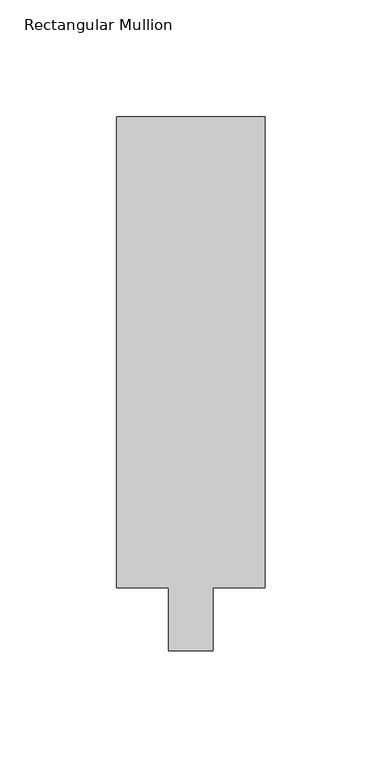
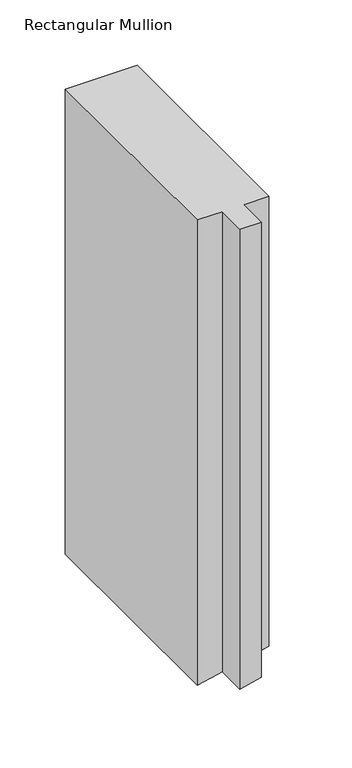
"""IFC4 building model written with IfcOpenShell, lengths in millimetres: member geometry."""

from ifc_helpers import new_model, si_unit, origin, place, context, project, spatial, faceted_brep, source, transform, mapped, element, save


def rectangular_mullion_39315b43(model_context):
    return source(origin(), model_context, "Body", "Brep", [
        faceted_brep([(31.75, 228.6, 0.0), (-31.75, 228.6, 0.0), (-31.75, 26.9875, 0.0), (-9.525, 26.9875, 0.0), (-9.525, 0.0, 0.0), (9.525, 0.0, 0.0), (9.525, 26.9875, 0.0), (31.75, 26.9875, 0.0), (31.75, 228.6, -420.6548715), (-13.6361042, 228.6, -430.633969), (-31.75, 228.6, -434.6166931), (-31.75, 26.9875, -434.6166931), (-13.6361042, 26.9875, -430.633969), (-9.525, 26.9875, -429.7300555), (-9.525, 0.0, -429.7300555), (9.525, 0.0, -425.5415091), (9.525, 26.9875, -425.5415091), (31.75, 26.9875, -420.6548715)], [[[0, 1, 2, 3, 4, 5, 6, 7]], [[1, 0, 8, 9, 10]], [[2, 1, 10, 11]], [[3, 2, 11, 12, 13]], [[4, 3, 13, 14]], [[5, 4, 14, 15]], [[6, 5, 15, 16]], [[7, 6, 16, 17]], [[0, 7, 17, 8]], [[8, 17, 16, 15, 14, 13, 12, 9]], [[12, 11, 10, 9]]]),
    ])


if __name__ == "__main__":
    model = new_model("IFC4")
    model_context = context("Model", 3, world=origin())
    ifc_project = project(units=[si_unit("LENGTHUNIT", "METRE", prefix="MILLI")], contexts=[model_context])
    site = spatial("IfcSite", under=ifc_project)
    building = spatial("IfcBuilding", under=site)
    placement = place(None, origin())
    rectangular_mullion_shape = rectangular_mullion_39315b43(model_context)
    element("IfcMember", 1, ObjectType="Rectangular Mullion : 2 1/2\" x 8\" - Capless", at=placement, inside=building, context=model_context, shape_type="MappedRepresentation", body=[
        mapped(rectangular_mullion_shape, transform((0.0, 0.0, 0.0), x_axis=(1.0, 0.0, 0.0), y_axis=(0.0, 1.0, 0.0), z_axis=(0.0, 0.0, 1.0))),
    ])
    save(model, "model.ifc")
